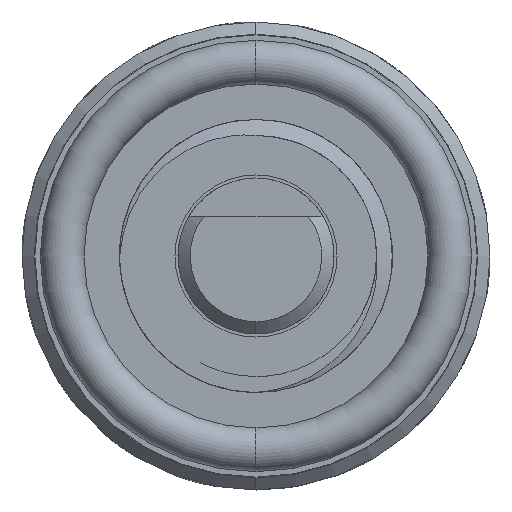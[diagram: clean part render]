
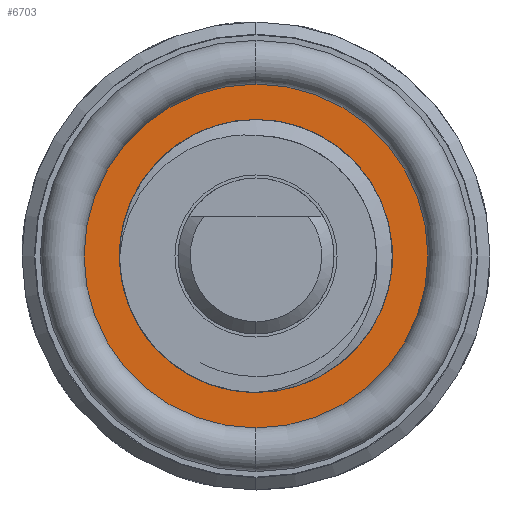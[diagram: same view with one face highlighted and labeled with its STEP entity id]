
A CAD part, left-side view. The second image highlights one B-rep face of the part: STEP entity #6703.
In plain terms, the highlighted planar face has unit normal (-1, 0, 0).
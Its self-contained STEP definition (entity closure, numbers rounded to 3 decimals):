
#972 = CARTESIAN_POINT ( 'NONE',  ( 18.57, 0., 7. ) ) ;
#973 = DIRECTION ( 'NONE',  ( 0., 0., 1. ) ) ;
#974 = DIRECTION ( 'NONE',  ( -1., 0., 0. ) ) ;
#975 = CARTESIAN_POINT ( 'NONE',  ( 18.57, 0., 0. ) ) ;
#976 = AXIS2_PLACEMENT_3D ( 'NONE', #975, #974, #973 ) ;
#983 = CIRCLE ( 'NONE', #976, 7. ) ;
#996 = CARTESIAN_POINT ( 'NONE',  ( 18.57, 0., -4.5 ) ) ;
#997 = CARTESIAN_POINT ( 'NONE',  ( 18.57, 0., 4.5 ) ) ;
#998 = DIRECTION ( 'NONE',  ( 0., 0., 1. ) ) ;
#999 = DIRECTION ( 'NONE',  ( -1., 0., 0. ) ) ;
#1000 = CARTESIAN_POINT ( 'NONE',  ( 18.57, 0., 0. ) ) ;
#1001 = AXIS2_PLACEMENT_3D ( 'NONE', #1000, #999, #998 ) ;
#1002 = CIRCLE ( 'NONE', #1001, 4.5 ) ;
#1191 = CARTESIAN_POINT ( 'NONE',  ( 18.57, 0., -7. ) ) ;
#6695 = ORIENTED_EDGE ( 'NONE', *, *, #6696, .F. ) ;
#6696 = EDGE_CURVE ( 'NONE', #12379, #12378, #16414, .T. ) ;
#6699 = EDGE_LOOP ( 'NONE', ( #6700, #6695 ) ) ;
#6700 = ORIENTED_EDGE ( 'NONE', *, *, #12377, .F. ) ;
#6701 = ORIENTED_EDGE ( 'NONE', *, *, #6706, .T. ) ;
#6702 = ORIENTED_EDGE ( 'NONE', *, *, #12360, .T. ) ;
#6703 = ADVANCED_FACE ( 'NONE', ( #16409, #16408 ), #16468, .T. ) ;
#6704 = EDGE_LOOP ( 'NONE', ( #6702, #6701 ) ) ;
#6706 = EDGE_CURVE ( 'NONE', #12449, #12361, #16463, .T. ) ;
#12360 = EDGE_CURVE ( 'NONE', #12361, #12449, #983, .T. ) ;
#12361 = VERTEX_POINT ( 'NONE', #972 ) ;
#12377 = EDGE_CURVE ( 'NONE', #12378, #12379, #1002, .T. ) ;
#12378 = VERTEX_POINT ( 'NONE', #997 ) ;
#12379 = VERTEX_POINT ( 'NONE', #996 ) ;
#12449 = VERTEX_POINT ( 'NONE', #1191 ) ;
#16408 = FACE_BOUND ( 'NONE', #6699, .T. ) ;
#16409 = FACE_OUTER_BOUND ( 'NONE', #6704, .T. ) ;
#16410 = DIRECTION ( 'NONE',  ( 0., 0., 1. ) ) ;
#16411 = DIRECTION ( 'NONE',  ( -1., 0., 0. ) ) ;
#16412 = CARTESIAN_POINT ( 'NONE',  ( 18.57, 0., 0. ) ) ;
#16413 = AXIS2_PLACEMENT_3D ( 'NONE', #16412, #16411, #16410 ) ;
#16414 = CIRCLE ( 'NONE', #16413, 4.5 ) ;
#16459 = DIRECTION ( 'NONE',  ( 0., 0., 1. ) ) ;
#16460 = DIRECTION ( 'NONE',  ( -1., 0., 0. ) ) ;
#16461 = CARTESIAN_POINT ( 'NONE',  ( 18.57, 0., 0. ) ) ;
#16462 = AXIS2_PLACEMENT_3D ( 'NONE', #16461, #16460, #16459 ) ;
#16463 = CIRCLE ( 'NONE', #16462, 7. ) ;
#16464 = DIRECTION ( 'NONE',  ( 0., 0., 1. ) ) ;
#16465 = DIRECTION ( 'NONE',  ( -1., 0., 0. ) ) ;
#16466 = CARTESIAN_POINT ( 'NONE',  ( 18.57, 0., -5.556 ) ) ;
#16467 = AXIS2_PLACEMENT_3D ( 'NONE', #16466, #16465, #16464 ) ;
#16468 = PLANE ( 'NONE',  #16467 ) ;
